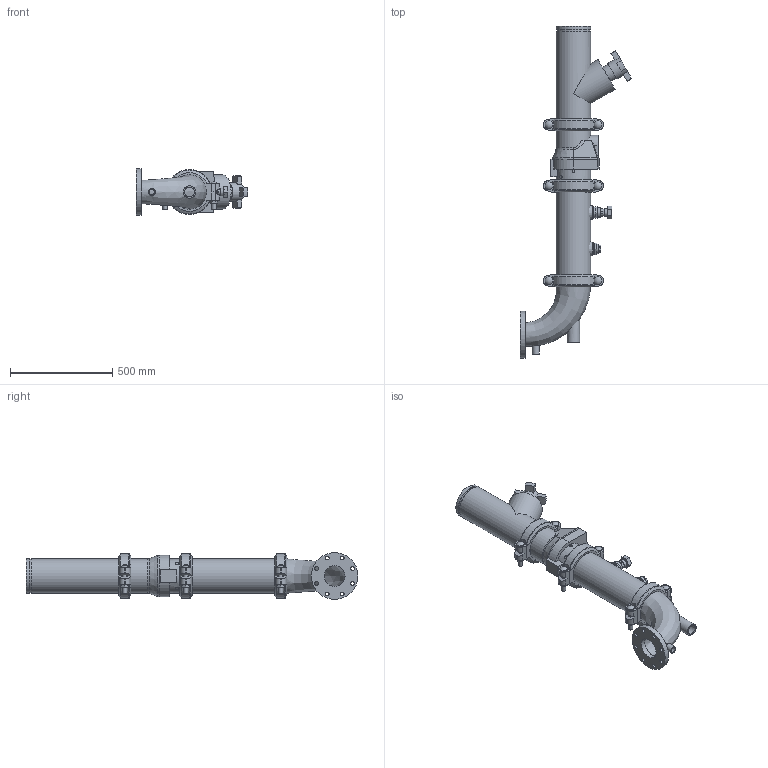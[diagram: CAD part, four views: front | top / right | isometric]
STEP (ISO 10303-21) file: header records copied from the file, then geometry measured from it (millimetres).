
FILE_DESCRIPTION(/* description */ ('VIC DVI PUMP DROP HORZ S/383 (OGSxFLG) (S/924-1.25)','CAx-IF Rec.Pracs.---Representation and Presentation of Product Manufacturing Information (PMI)---4.0---2014-10-13'),/* implementation_level */ '2;1');
FILE_NAME(/* name */ 'C:\Users\kkamble\AppData\Roaming\Autodesk\ApplicationPlugins\Victaulic.Temp\A821\CL 150_Series 383 (OGSxFLG)_924 (1.25)_06.0x04.0 (150x100).stp',/* time_stamp */ '2022-03-16T18:45:56+05:00',/* author */ ('kkamble'),/* organization */ ('Victaulic'),/* preprocessor_version */ 'ST-DEVELOPER v17.2',/* originating_system */ 'Autodesk Inventor 2019',/* authorisation */ '');
FILE_SCHEMA (('AP242_MANAGED_MODEL_BASED_3D_ENGINEERING_MIM_LF { 1 0 10303 442 1 1 4 }'));
Length unit declared in the file: inch
Products named in the file (8): 383_924 (1.25)-06.0x04.0; Pipe-06.0x04.0; 789-06.0; 177N-06.0; 779-06.0; 924-04.0x01.25; 923-04.0x0.75; R100F-06.0x04.0
Assembly tree (9 placements, depth 2):
  383_924 (1.25)-06.0x04.0
    177N-06.0  x3
    Pipe-06.0x04.0
    789-06.0
    779-06.0
    924-04.0x01.25
    923-04.0x0.75
    R100F-06.0x04.0
Bounding box: 546.1 x 1625.6 x 228.6 mm (x, y, z)
Volume: 15249030.7 mm3; surface area: 2469292.1 mm2
Topology: 9 solids, 10 shells, 543 faces, 1425 edges, 957 vertices
Faces by surface type: plane 316, cylinder 180, torus 18, cone 17, sphere 6, bspline 6
Full cylindrical faces by diameter (mm): 13.716 x4, 19.05 x8, 21.209 x6, 21.336 x1, 26.67 x3, 34.29 x1, 37.694 x6, 38.608 x1, 42.164 x1, 45.974 x4, 48.26 x1, 48.514 x1, 55.626 x2, 60.96 x1, 79.375 x1, 88.9 x1, 102.26 x1, 154.051 x4, 155.575 x3, 163.957 x7, 168.275 x18, 228.6 x1
Entity records: 13226 total; most frequent: CARTESIAN_POINT 3519, DIRECTION 1983, ORIENTED_EDGE 1830, EDGE_CURVE 915, AXIS2_PLACEMENT_3D 757, VERTEX_POINT 621, LINE 469, VECTOR 469
